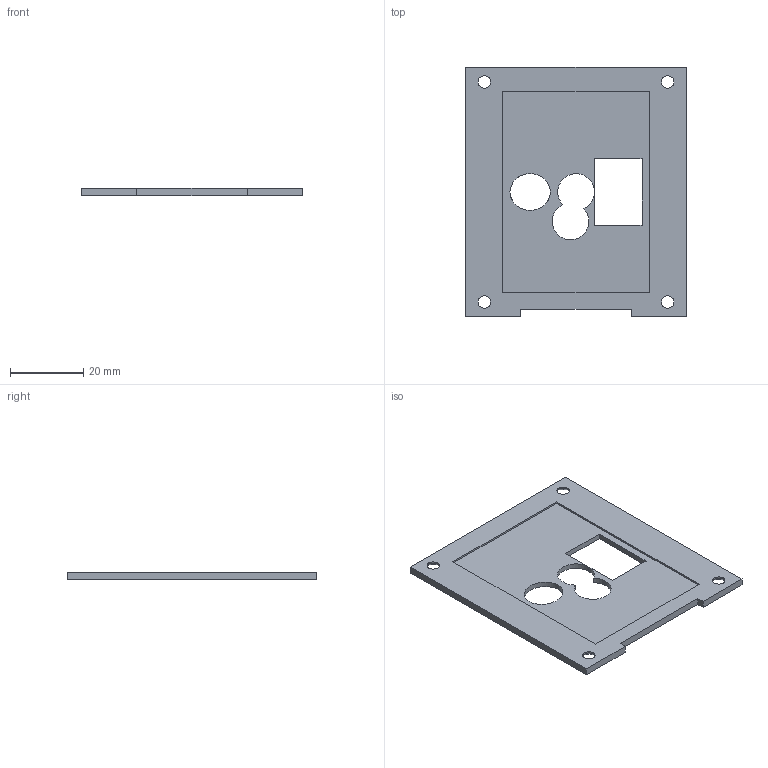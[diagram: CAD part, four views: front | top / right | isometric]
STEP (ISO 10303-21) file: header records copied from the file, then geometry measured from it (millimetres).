
FILE_DESCRIPTION(/* description */ (''),/* implementation_level */ '2;1');
FILE_NAME(/* name */ 'D:\离子阱\铭泰加工\加工文件-20230209\40K窗口掩膜板\40Kmask_1.stp',/* time_stamp */ '2023-02-13T21:22:23+08:00',/* author */ ('HackerAdam'),/* organization */ (''),/* preprocessor_version */ 'ST-DEVELOPER v19',/* originating_system */ 'Autodesk Inventor 2023',/* authorisation */ '');
FILE_SCHEMA (('AUTOMOTIVE_DESIGN { 1 0 10303 214 3 1 1 }'));
Length unit declared in the file: millimetre
Products named in the file (1): 1521249-8-0035 Ò»¼¶´°Æ¬
Ñ¹°å²àÃæ
Bounding box: 60 x 68 x 2 mm (x, y, z)
Volume: 6094 mm3; surface area: 7919.1 mm2
Topology: 1 solids, 1 shells, 32 faces, 83 edges, 53 vertices
Faces by surface type: plane 20, cylinder 7, cone 4, bspline 1
Full cylindrical faces by diameter (mm): 3.4 x4
Entity records: 1062 total; most frequent: CARTESIAN_POINT 186, DIRECTION 167, ORIENTED_EDGE 166, EDGE_CURVE 83, LINE 63, VECTOR 63, VERTEX_POINT 52, AXIS2_PLACEMENT_3D 52
